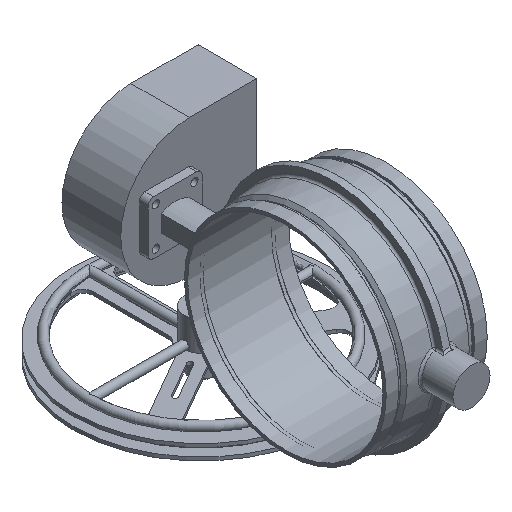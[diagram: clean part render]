
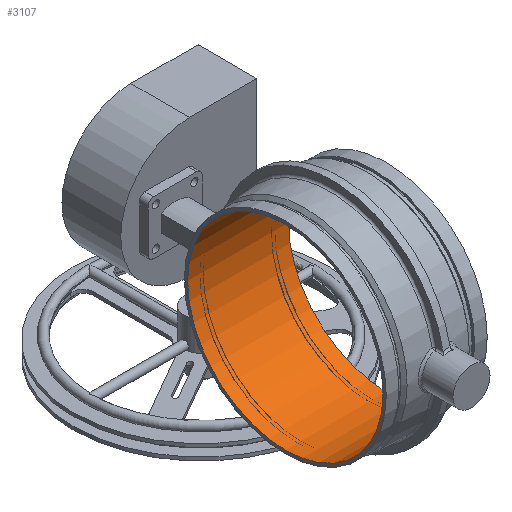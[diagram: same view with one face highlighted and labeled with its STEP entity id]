
A CAD part, isometric view. The second image highlights one B-rep face of the part: STEP entity #3107.
In plain terms, the highlighted cylindrical face has radius 295.021 mm (diameter 590.042 mm), a full revolution.
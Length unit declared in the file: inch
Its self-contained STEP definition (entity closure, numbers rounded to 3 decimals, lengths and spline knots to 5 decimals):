
#323=CIRCLE('',#3486,11.615);
#324=CIRCLE('',#3487,11.615);
#325=CIRCLE('',#3489,11.615);
#326=CIRCLE('',#3490,11.615);
#505=FACE_OUTER_BOUND('',#685,.T.);
#685=EDGE_LOOP('',(#2682,#2683,#2684,#2685,#2686,#2687));
#924=LINE('',#6209,#1080);
#1080=VECTOR('',#4368,11.615);
#1358=VERTEX_POINT('',#6203);
#1359=VERTEX_POINT('',#6204);
#1360=VERTEX_POINT('',#6208);
#1361=VERTEX_POINT('',#6210);
#1807=EDGE_CURVE('',#1358,#1359,#323,.T.);
#1808=EDGE_CURVE('',#1359,#1358,#324,.T.);
#1809=EDGE_CURVE('',#1359,#1360,#924,.T.);
#1810=EDGE_CURVE('',#1361,#1360,#325,.T.);
#1811=EDGE_CURVE('',#1360,#1361,#326,.T.);
#2682=ORIENTED_EDGE('',*,*,#1807,.T.);
#2683=ORIENTED_EDGE('',*,*,#1809,.T.);
#2684=ORIENTED_EDGE('',*,*,#1810,.F.);
#2685=ORIENTED_EDGE('',*,*,#1811,.F.);
#2686=ORIENTED_EDGE('',*,*,#1809,.F.);
#2687=ORIENTED_EDGE('',*,*,#1808,.T.);
#2791=CYLINDRICAL_SURFACE('',#3488,11.615);
#3107=ADVANCED_FACE('',(#505),#2791,.F.);
#3486=AXIS2_PLACEMENT_3D('',#6205,#4362,#4363);
#3487=AXIS2_PLACEMENT_3D('',#6206,#4364,#4365);
#3488=AXIS2_PLACEMENT_3D('',#6207,#4366,#4367);
#3489=AXIS2_PLACEMENT_3D('',#6211,#4369,#4370);
#3490=AXIS2_PLACEMENT_3D('',#6212,#4371,#4372);
#4362=DIRECTION('center_axis',(1.,0.,0.));
#4363=DIRECTION('ref_axis',(0.,1.,0.));
#4364=DIRECTION('center_axis',(1.,0.,0.));
#4365=DIRECTION('ref_axis',(0.,1.,0.));
#4366=DIRECTION('center_axis',(1.,0.,0.));
#4367=DIRECTION('ref_axis',(0.,1.,0.));
#4368=DIRECTION('',(-1.,0.,0.));
#4369=DIRECTION('center_axis',(1.,0.,0.));
#4370=DIRECTION('ref_axis',(0.,1.,0.));
#4371=DIRECTION('center_axis',(1.,0.,0.));
#4372=DIRECTION('ref_axis',(0.,1.,0.));
#6203=CARTESIAN_POINT('',(6.,11.615,0.));
#6204=CARTESIAN_POINT('',(6.,-11.615,0.));
#6205=CARTESIAN_POINT('Origin',(6.,0.,0.));
#6206=CARTESIAN_POINT('Origin',(6.,0.,0.));
#6207=CARTESIAN_POINT('Origin',(0.,0.,0.));
#6208=CARTESIAN_POINT('',(-6.,-11.615,0.));
#6209=CARTESIAN_POINT('',(0.,-11.615,0.));
#6210=CARTESIAN_POINT('',(-6.,11.615,0.));
#6211=CARTESIAN_POINT('Origin',(-6.,0.,0.));
#6212=CARTESIAN_POINT('Origin',(-6.,0.,0.));
